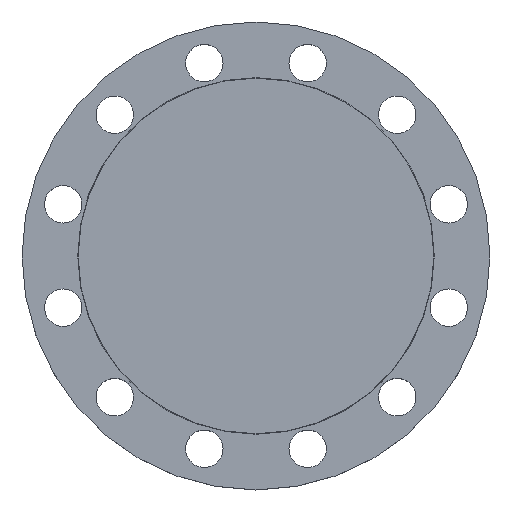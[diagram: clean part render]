
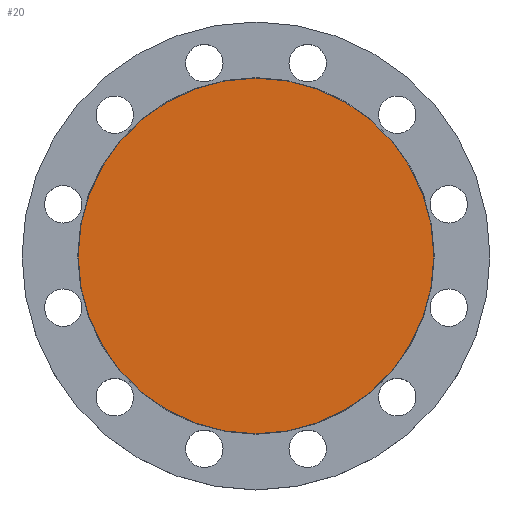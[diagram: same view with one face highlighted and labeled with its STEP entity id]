
A CAD part, top view. The second image highlights one B-rep face of the part: STEP entity #20.
In plain terms, the highlighted planar face has unit normal (0, 0, 1).
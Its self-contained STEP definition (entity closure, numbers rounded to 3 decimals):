
#20 = ADVANCED_FACE ( 'NONE', ( #56 ), #550, .T. ) ;
#56 = FACE_OUTER_BOUND ( 'NONE', #162, .T. ) ;
#66 = DIRECTION ( 'NONE',  ( -1., 0., 0. ) ) ;
#113 = EDGE_CURVE ( 'NONE', #1068, #179, #322, .T. ) ;
#162 = EDGE_LOOP ( 'NONE', ( #729, #385 ) ) ;
#179 = VERTEX_POINT ( 'NONE', #1053 ) ;
#230 = CARTESIAN_POINT ( 'NONE',  ( 142.5, 0., 0. ) ) ;
#313 = AXIS2_PLACEMENT_3D ( 'NONE', #641, #899, #66 ) ;
#322 = CIRCLE ( 'NONE', #313, 142.5 ) ;
#385 = ORIENTED_EDGE ( 'NONE', *, *, #113, .F. ) ;
#425 = DIRECTION ( 'NONE',  ( 0., 0., -1. ) ) ;
#429 = DIRECTION ( 'NONE',  ( 1., 0., 0. ) ) ;
#550 = PLANE ( 'NONE',  #1096 ) ;
#570 = AXIS2_PLACEMENT_3D ( 'NONE', #1084, #425, #762 ) ;
#591 = CIRCLE ( 'NONE', #570, 142.5 ) ;
#641 = CARTESIAN_POINT ( 'NONE',  ( 0., 0., 0. ) ) ;
#729 = ORIENTED_EDGE ( 'NONE', *, *, #985, .F. ) ;
#762 = DIRECTION ( 'NONE',  ( -1., 0., 0. ) ) ;
#828 = CARTESIAN_POINT ( 'NONE',  ( 0., 0., 0. ) ) ;
#899 = DIRECTION ( 'NONE',  ( 0., 0., -1. ) ) ;
#985 = EDGE_CURVE ( 'NONE', #179, #1068, #591, .T. ) ;
#1053 = CARTESIAN_POINT ( 'NONE',  ( -142.5, 0., 0. ) ) ;
#1068 = VERTEX_POINT ( 'NONE', #230 ) ;
#1084 = CARTESIAN_POINT ( 'NONE',  ( 0., 0., 0. ) ) ;
#1086 = DIRECTION ( 'NONE',  ( 0., 0., 1. ) ) ;
#1096 = AXIS2_PLACEMENT_3D ( 'NONE', #828, #1086, #429 ) ;
